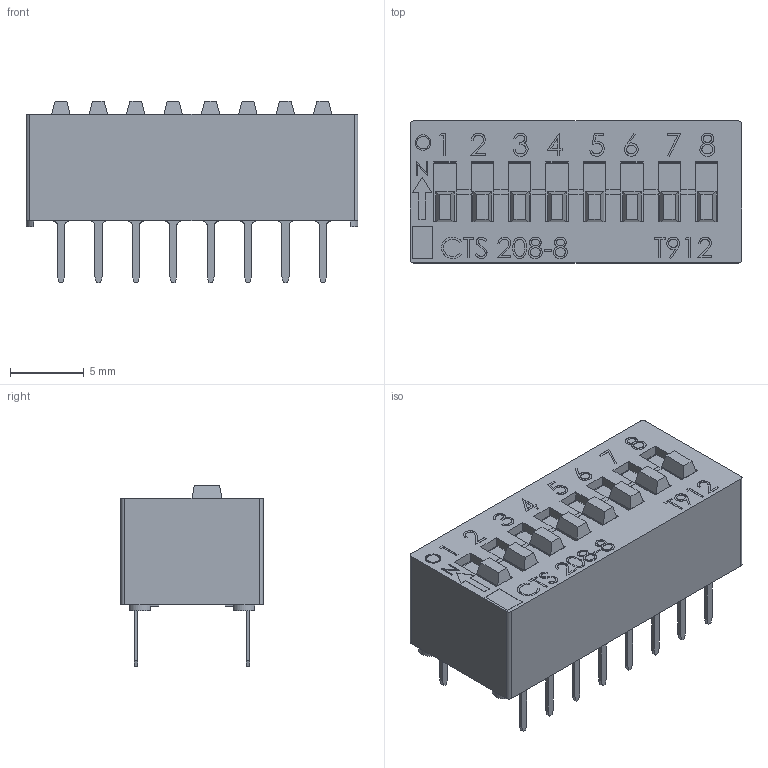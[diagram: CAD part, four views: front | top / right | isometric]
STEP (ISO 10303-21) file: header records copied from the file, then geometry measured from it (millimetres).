
FILE_DESCRIPTION (( 'STEP AP214' ), '1' );
FILE_NAME ('208-8.STEP', '2019-05-24T07:08:59', ( '' ), ( '' ), 'SwSTEP 2.0', 'SolidWorks 2019', '' );
FILE_SCHEMA (( 'AUTOMOTIVE_DESIGN' ));
Length unit declared in the file: millimetre
Products named in the file (4): 206-40-068(for 208008); 206-93&94-8pole; 206-56-014-35-01; 208-8
Assembly tree (10 placements, depth 2):
  208-8
    206-40-068(for 208008)
    206-56-014-35-01  x8
    206-93&94-8pole
Bounding box: 22.53 x 9.65 x 12.32 mm (x, y, z)
Volume: 991.9 mm3; surface area: 2973.8 mm2
Topology: 10 solids, 10 shells, 917 faces, 2485 edges, 1644 vertices
Faces by surface type: plane 661, bspline 150, cylinder 106
Entity records: 29679 total; most frequent: CARTESIAN_POINT 13246, ORIENTED_EDGE 3556, DIRECTION 2608, EDGE_CURVE 1778, LINE 1376, VECTOR 1376, VERTEX_POINT 1182, EDGE_LOOP 718
